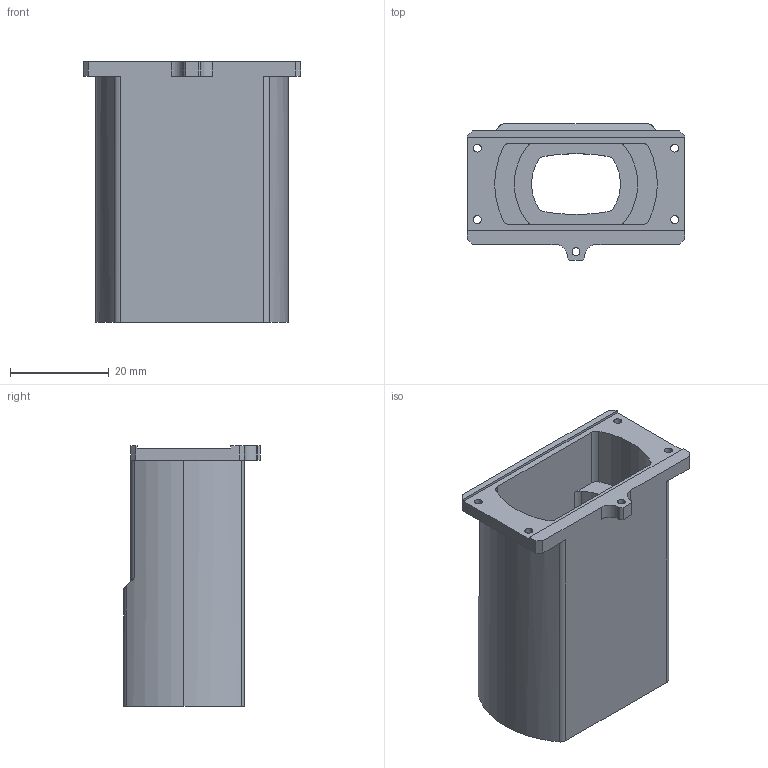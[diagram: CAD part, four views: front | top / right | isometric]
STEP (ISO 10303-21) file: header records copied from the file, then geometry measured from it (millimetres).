
FILE_DESCRIPTION(('CATIA V5 STEP Exchange','CAx-IF Rec.Pracs.--- Model Styling and Organization---1.4--- 2014-01-23','CAx-IF Rec.Pracs.---3D Tessellated Data Validation Properties---0.5---2014-09-14'),'2;1');
FILE_NAME('C:\Users\IS33\Desktop\220112移動データ\手配用データ\DT341M504-00-.stp','2022-01-12T08:28:21+00:00',('none'),('none'),'CATIA Version 5-6 Release 2019 SP3','CATIA V5 STEP AP242 v1','none');
FILE_SCHEMA(('AP242_MANAGED_MODEL_BASED_3D_ENGINEERING_MIM_LF {1 0 10303 442 1 1 4}'));
Length unit declared in the file: millimetre
Products named in the file (1): BARREL_3-3
Bounding box: 44 x 27.75 x 52.88 mm (x, y, z)
Volume: 21061.5 mm3; surface area: 12156.6 mm2
Topology: 1 solids, 1 shells, 92 faces, 260 edges, 176 vertices
Faces by surface type: cylinder 56, plane 36
Entity records: 2897 total; most frequent: CARTESIAN_POINT 537, ORIENTED_EDGE 520, DIRECTION 402, EDGE_CURVE 260, AXIS2_PLACEMENT_3D 191, VERTEX_POINT 176, VECTOR 138, LINE 138
